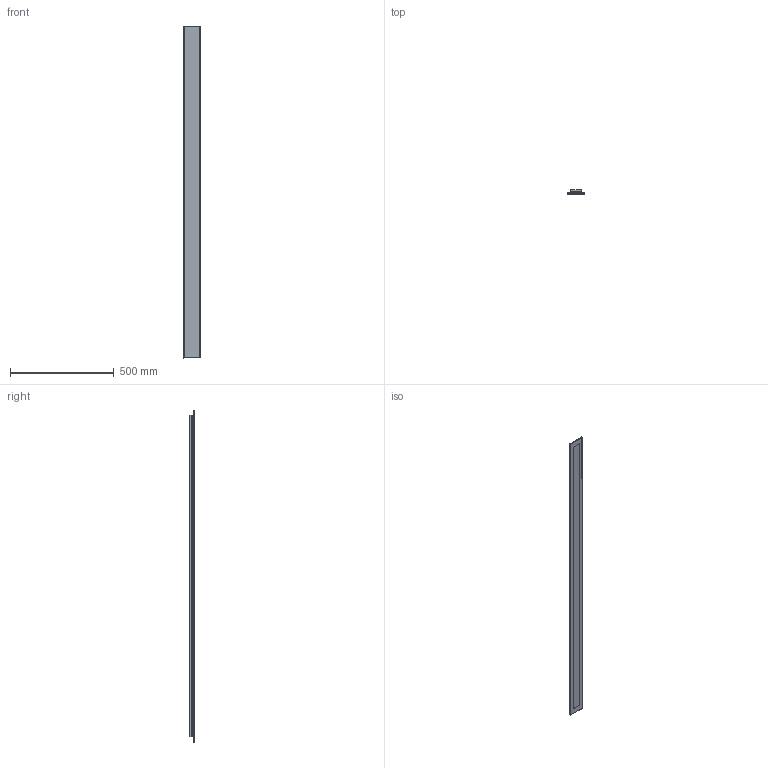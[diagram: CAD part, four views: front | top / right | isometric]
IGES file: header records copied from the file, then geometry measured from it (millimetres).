
Start section: SolidWorks IGES file using analytic representation for surfaces
Global section: file name: C:\Users\anna.bielnik\Desktop\comma led\NL2500000890.IGS; native system: SolidWorks 2024; preprocessor: SolidWorks 2024; author: anna.bielnik; date: 250324.093642; units: millimetre
Bounding box: 80.28 x 19.96 x 1600 mm (x, y, z)
Surface area: 552460.4 mm2 (no closed solid volume)
Topology: 0 solids, 0 shells, 90 faces, 502 edges, 502 vertices
Faces by surface type: bspline 69, revolution 21
